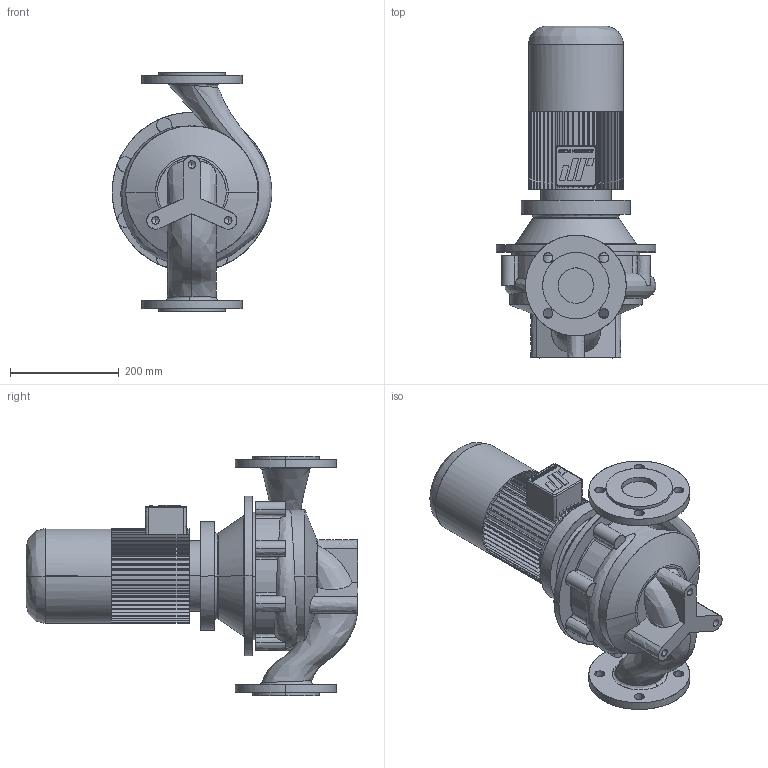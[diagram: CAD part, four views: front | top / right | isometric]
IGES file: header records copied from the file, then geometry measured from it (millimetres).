
Start section: CombiLine
Global section: file name: CLB_65-200_IEC90L_ND10.igs; native system:  By UGS Corp.; preprocessor: XPlus GENERIC/IGES 3.0; author: Stageplaats; organization: Johnson Pump Water B.V.; date: 20070716.131344; units: millimetre
Bounding box: 293.39 x 609.5 x 440 mm (x, y, z)
Surface area: 854935.8 mm2 (no closed solid volume)
Topology: 0 solids, 0 shells, 544 faces, 3306 edges, 3300 vertices
Faces by surface type: bspline 544
